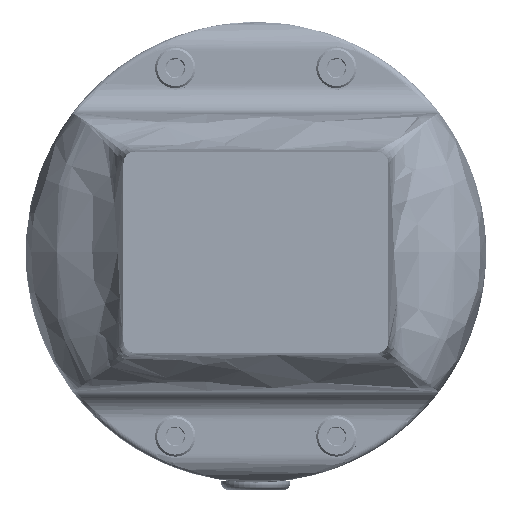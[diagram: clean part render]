
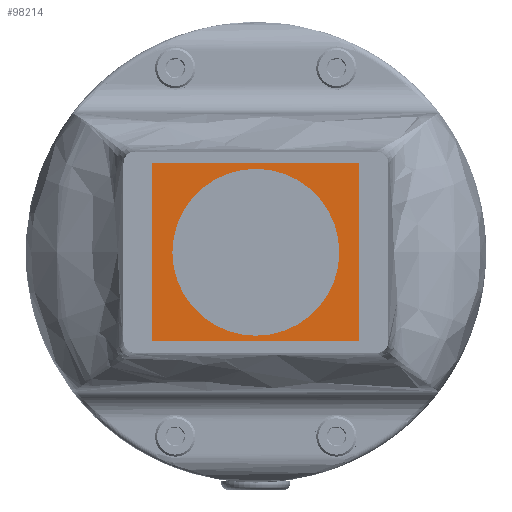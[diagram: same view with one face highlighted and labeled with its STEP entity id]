
A CAD part, front view. The second image highlights one B-rep face of the part: STEP entity #98214.
In plain terms, the highlighted planar face has unit normal (0, -1, 0).
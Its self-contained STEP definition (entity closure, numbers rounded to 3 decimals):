
#63 = LINE ( 'NONE', #114295, #81229 ) ;
#1782 = ORIENTED_EDGE ( 'NONE', *, *, #64677, .T. ) ;
#5080 = LINE ( 'NONE', #157802, #84184 ) ;
#8914 = DIRECTION ( 'NONE',  ( 0., 1., 0. ) ) ;
#19745 = LINE ( 'NONE', #151611, #60252 ) ;
#21163 = EDGE_LOOP ( 'NONE', ( #120287, #95732 ) ) ;
#27331 = CARTESIAN_POINT ( 'NONE',  ( -18., 0., -15.5 ) ) ;
#29042 = CIRCLE ( 'NONE', #121802, 14.5 ) ;
#42581 = DIRECTION ( 'NONE',  ( 0., 0., 1. ) ) ;
#43141 = VERTEX_POINT ( 'NONE', #115892 ) ;
#43697 = ORIENTED_EDGE ( 'NONE', *, *, #136963, .F. ) ;
#47495 = EDGE_CURVE ( 'NONE', #68537, #159046, #29042, .T. ) ;
#48392 = DIRECTION ( 'NONE',  ( -1., 0., 0. ) ) ;
#50997 = CARTESIAN_POINT ( 'NONE',  ( 0., 0., 0. ) ) ;
#53863 = DIRECTION ( 'NONE',  ( 1., 0., 0. ) ) ;
#57390 = EDGE_CURVE ( 'NONE', #86270, #43141, #5080, .T. ) ;
#58842 = EDGE_LOOP ( 'NONE', ( #91333, #1782, #43697, #85697 ) ) ;
#60252 = VECTOR ( 'NONE', #61321, 1000. ) ;
#60449 = CARTESIAN_POINT ( 'NONE',  ( 0., 0., 0. ) ) ;
#61321 = DIRECTION ( 'NONE',  ( 0., 0., -1. ) ) ;
#64033 = DIRECTION ( 'NONE',  ( 0., 1., 0. ) ) ;
#64677 = EDGE_CURVE ( 'NONE', #86270, #160159, #19745, .T. ) ;
#65154 = DIRECTION ( 'NONE',  ( 0., 0., 1. ) ) ;
#68537 = VERTEX_POINT ( 'NONE', #89659 ) ;
#81229 = VECTOR ( 'NONE', #115395, 1000. ) ;
#84184 = VECTOR ( 'NONE', #53863, 1000. ) ;
#85697 = ORIENTED_EDGE ( 'NONE', *, *, #125664, .F. ) ;
#86270 = VERTEX_POINT ( 'NONE', #145342 ) ;
#86869 = LINE ( 'NONE', #153361, #117373 ) ;
#89659 = CARTESIAN_POINT ( 'NONE',  ( 0., 0., -14.5 ) ) ;
#91333 = ORIENTED_EDGE ( 'NONE', *, *, #57390, .F. ) ;
#95732 = ORIENTED_EDGE ( 'NONE', *, *, #47495, .T. ) ;
#98214 = ADVANCED_FACE ( 'NONE', ( #109004, #139440 ), #144272, .F. ) ;
#105460 = VERTEX_POINT ( 'NONE', #130337 ) ;
#109004 = FACE_BOUND ( 'NONE', #21163, .T. ) ;
#114295 = CARTESIAN_POINT ( 'NONE',  ( 18., 0., 15.5 ) ) ;
#115395 = DIRECTION ( 'NONE',  ( 0., 0., -1. ) ) ;
#115892 = CARTESIAN_POINT ( 'NONE',  ( 18., 0., 15.5 ) ) ;
#117373 = VECTOR ( 'NONE', #48392, 1000. ) ;
#119755 = CIRCLE ( 'NONE', #137949, 14.5 ) ;
#120287 = ORIENTED_EDGE ( 'NONE', *, *, #164624, .T. ) ;
#121802 = AXIS2_PLACEMENT_3D ( 'NONE', #50997, #64033, #65154 ) ;
#125664 = EDGE_CURVE ( 'NONE', #43141, #105460, #63, .T. ) ;
#126451 = DIRECTION ( 'NONE',  ( 0., 0., 1. ) ) ;
#130337 = CARTESIAN_POINT ( 'NONE',  ( 18., 0., -15.5 ) ) ;
#136963 = EDGE_CURVE ( 'NONE', #105460, #160159, #86869, .T. ) ;
#137949 = AXIS2_PLACEMENT_3D ( 'NONE', #60449, #8914, #126451 ) ;
#139440 = FACE_OUTER_BOUND ( 'NONE', #58842, .T. ) ;
#144272 = PLANE ( 'NONE',  #145551 ) ;
#145342 = CARTESIAN_POINT ( 'NONE',  ( -18., 0., 15.5 ) ) ;
#145551 = AXIS2_PLACEMENT_3D ( 'NONE', #145951, #157286, #42581 ) ;
#145951 = CARTESIAN_POINT ( 'NONE',  ( 0., 0., 0. ) ) ;
#149184 = CARTESIAN_POINT ( 'NONE',  ( 0., 0., 14.5 ) ) ;
#151611 = CARTESIAN_POINT ( 'NONE',  ( -18., 0., 15.5 ) ) ;
#153361 = CARTESIAN_POINT ( 'NONE',  ( -23., 0., -15.5 ) ) ;
#157286 = DIRECTION ( 'NONE',  ( 0., 1., 0. ) ) ;
#157802 = CARTESIAN_POINT ( 'NONE',  ( -23., 0., 15.5 ) ) ;
#159046 = VERTEX_POINT ( 'NONE', #149184 ) ;
#160159 = VERTEX_POINT ( 'NONE', #27331 ) ;
#164624 = EDGE_CURVE ( 'NONE', #159046, #68537, #119755, .T. ) ;
